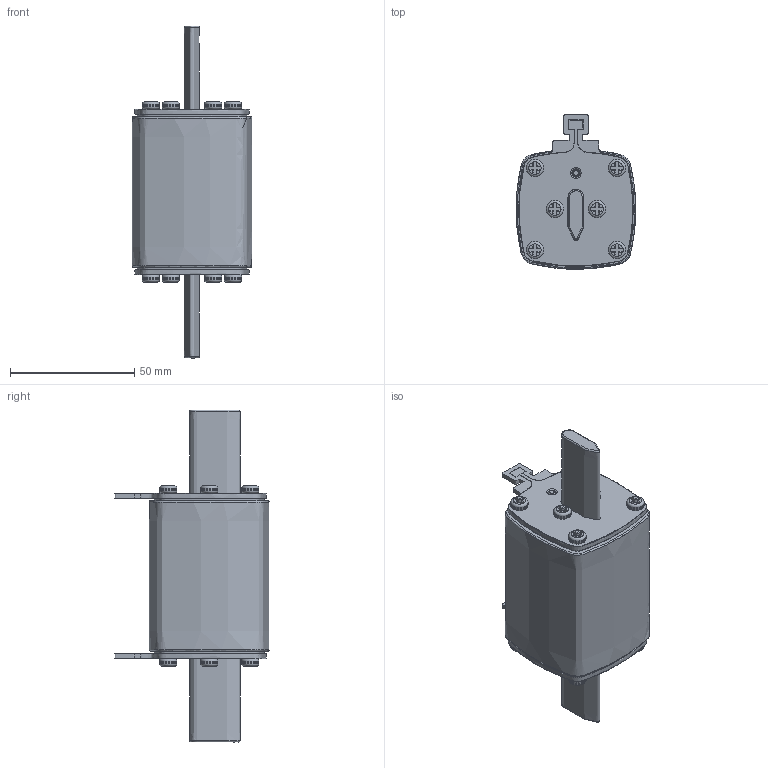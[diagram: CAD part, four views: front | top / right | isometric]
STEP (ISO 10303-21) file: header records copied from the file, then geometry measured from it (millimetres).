
FILE_DESCRIPTION(/* description */ (''),/* implementation_level */ '2;1');
FILE_NAME(/* name */ '3D NH1 500V-120KA-250A DATA.stp',/* time_stamp */ '2022-12-28T09:05:26+03:00',/* author */ (''),/* organization */ (''),/* preprocessor_version */ 'ST-DEVELOPER v16.7',/* originating_system */ 'SIEMENS PLM Software NX 1915',/* authorisation */ '');
FILE_SCHEMA (('AP203_CONFIGURATION_CONTROLLED_3D_DESIGN_OF_MECHANICAL_PARTS_AND_ASSEMBLIES_MIM_LF { 1 0 10303 403 2 1 2}'));
Length unit declared in the file: millimetre
Products named in the file (1): 3D NH1 500V-120KA-250A DATA
Bounding box: 48.15 x 61.95 x 133.5 mm (x, y, z)
Volume: 93854.3 mm3; surface area: 47722.6 mm2
Topology: 44 solids, 44 shells, 495 faces, 1169 edges, 757 vertices
Faces by surface type: cylinder 155, plane 153, extrusion 66, torus 63, bspline 58
Full cylindrical faces by diameter (mm): 0.28 x1, 3 x1, 3.3 x2, 3.8 x14, 4 x30, 4.4 x1, 4.5 x1, 5 x1, 5.5 x1, 7 x24, 34 x1
Entity records: 22293 total; most frequent: CARTESIAN_POINT 12056, ORIENTED_EDGE 1990, DIRECTION 1796, EDGE_CURVE 995, AXIS2_PLACEMENT_3D 773, EDGE_LOOP 748, VERTEX_POINT 737, ADVANCED_FACE 495
